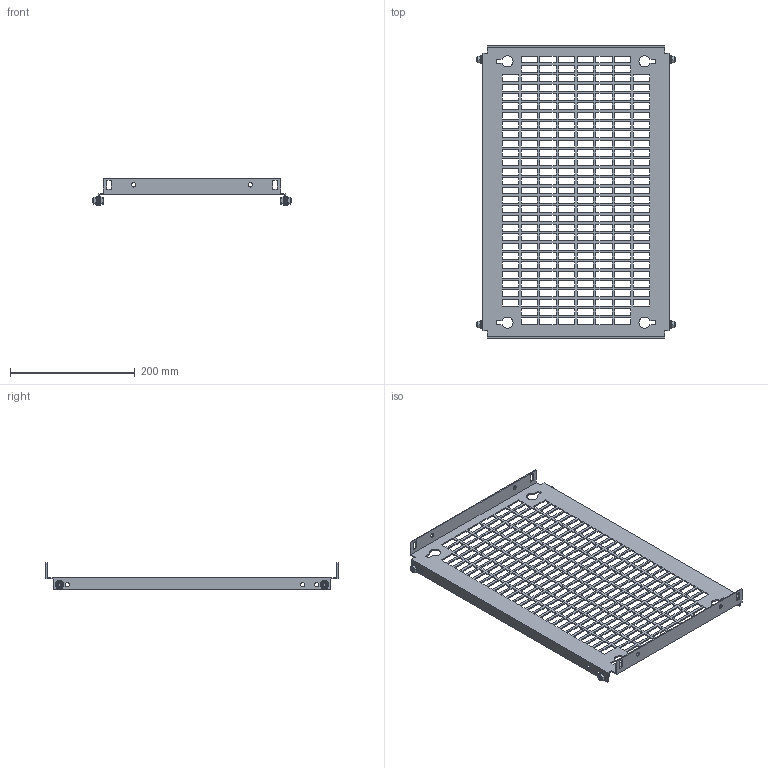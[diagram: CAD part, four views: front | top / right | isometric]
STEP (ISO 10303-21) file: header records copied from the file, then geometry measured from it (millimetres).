
FILE_DESCRIPTION(('Open CASCADE Model'),'2;1');
FILE_NAME('Open CASCADE Shape Model','2025-02-19T16:48:22',('Author'),( 'Open CASCADE'),'Open CASCADE STEP processor 7.8','Open CASCADE 7.8' ,'Unknown');
FILE_SCHEMA(('AUTOMOTIVE_DESIGN { 1 0 10303 214 1 1 1 1 }'));
Length unit declared in the file: millimetre
Products named in the file (4): Compound1; Solid1; Solid2; Solid3
Assembly tree (9 placements, depth 2):
  Compound1
    Solid1
    Solid2  x4
    Solid3  x4
Bounding box: 320 x 469 x 43 mm (x, y, z)
Volume: 211572.3 mm3; surface area: 248855.8 mm2
Topology: 9 solids, 9 shells, 1188 faces, 3393 edges, 2227 vertices
Faces by surface type: plane 1030, cone 68, bspline 48, cylinder 30, torus 12
Full cylindrical faces by diameter (mm): 5 x4, 6 x8, 7 x14
Entity records: 35254 total; most frequent: CARTESIAN_POINT 6719, ORIENTED_EDGE 6108, DIRECTION 5102, EDGE_CURVE 3054, LINE 2896, VECTOR 2896, VERTEX_POINT 2029, FACE_BOUND 1527
